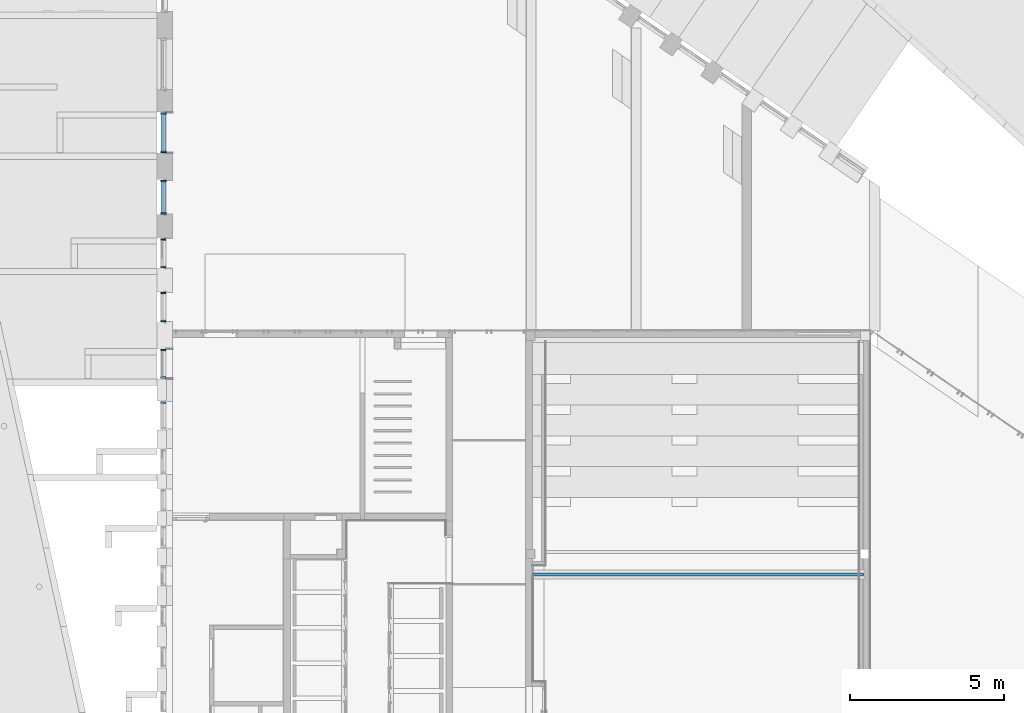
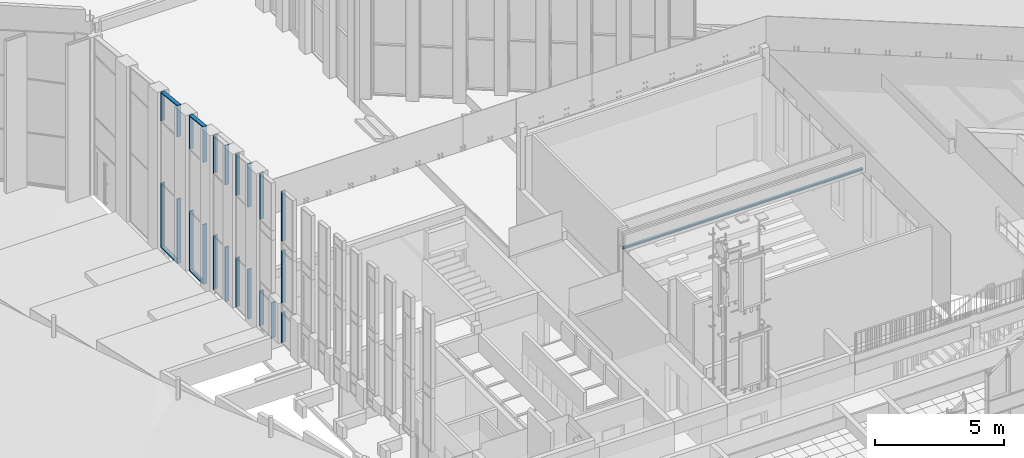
# One storey, part 61 of 246: 26 members, 1 beam, 6 elements without a shape of their own.
"""IFC2X3 building model written with IfcOpenShell, lengths in millimetres."""

from ifc_helpers import new_model, entity, si_unit, converted_unit, derived_unit, money_unit, direction, frame, origin_with_axes, place, context, subcontext, project, spatial, faceted_brep, material, type_object, element, aggregate, save


model = new_model("IFC2X3")

# Units and contexts
model_context = context("Model", 3, precision=0.01, world=origin_with_axes(), true_north=direction((0.0, 1.0)))
body_context = subcontext(model_context, "Body", "Model", "MODEL_VIEW")
ifc_project = project(units=[si_unit("LENGTHUNIT", "METRE", prefix="MILLI"), si_unit("AREAUNIT", "SQUARE_METRE"), si_unit("VOLUMEUNIT", "CUBIC_METRE"), converted_unit("PLANEANGLEUNIT", "DEGREE", entity("IfcPlaneAngleMeasure", 0.0174532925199), si_unit("PLANEANGLEUNIT", "RADIAN"), dimensions=[0, 0, 0, 0, 0, 0, 0]), si_unit("SOLIDANGLEUNIT", "STERADIAN"), money_unit("EUR"), converted_unit("TIMEUNIT", "Year", entity("IfcTimeMeasure", 31556926.0), si_unit("TIMEUNIT", "SECOND"), dimensions=[0, 0, 1, 0, 0, 0, 0]), si_unit("MASSUNIT", "GRAM", prefix="KILO"), si_unit("THERMODYNAMICTEMPERATUREUNIT", "DEGREE_CELSIUS"), si_unit("LUMINOUSINTENSITYUNIT", "LUMEN"), si_unit("ENERGYUNIT", "JOULE", prefix="MEGA"), derived_unit("THERMALCONDUCTANCEUNIT", [(si_unit("POWERUNIT", "WATT"), 1), (si_unit("LENGTHUNIT", "METRE"), -1), (si_unit("THERMODYNAMICTEMPERATUREUNIT", "KELVIN"), -1)]), derived_unit("SPECIFICHEATCAPACITYUNIT", [(si_unit("ENERGYUNIT", "JOULE"), 1), (si_unit("MASSUNIT", "GRAM", prefix="KILO"), -1), (si_unit("THERMODYNAMICTEMPERATUREUNIT", "KELVIN"), -1)]), derived_unit("MASSDENSITYUNIT", [(si_unit("MASSUNIT", "GRAM", prefix="KILO"), 1), (si_unit("VOLUMEUNIT", "CUBIC_METRE"), -1)])], contexts=[model_context])

# Site, building, storey
site_placement = place(None, origin_with_axes())
site = spatial("IfcSite", under=ifc_project, at=site_placement, Name="L.Koidula tn 11b", CompositionType="ELEMENT")
building_placement = place(site_placement, origin_with_axes())
building = spatial("IfcBuilding", under=site, at=building_placement, Name="Rakvere Riigigümnaasium", CompositionType="ELEMENT")
storey_placement = place(building_placement, origin_with_axes())
storey = spatial("IfcBuildingStorey", under=building, at=storey_placement, Name="1.korrus 0,00", CompositionType="ELEMENT", Elevation=0.0)

# Beam
ifc_material_1 = material(Name="Teras")
beam_type = type_object("IfcBeamType", Name="AR-HE100B 100 x 100", PredefinedType="BEAM")
beam_placement = place(storey_placement, frame((47209.9999935, 23585.3555432, 5525.01371318), z_axis=(0.0, 0.0, 1.0), x_axis=(0.0, -1.0, 0.0)))
element("IfcBeam", 1, at=beam_placement, inside=storey, type_object=beam_type, material=ifc_material_1, Name="TALA", ObjectType="BEAM", context=body_context, shape_type="Brep", body=[
    faceted_brep([(50.0, 0.0, -50.0), (50.0, 10770.0348166, -50.0), (50.0, 10770.0348166, -42.0), (50.0, 0.0, -42.0), (-50.0, 0.0, -50.0), (-50.0, 10770.0348166, -50.0), (-50.0, 10770.0348166, -42.0), (-17.4999999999, 10770.0348166, -42.0), (-9.99999999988, 10770.0348166, -39.9903810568), (-4.50961894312, 10770.0348166, -34.5), (-2.49999999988, 10770.0348166, -27.0), (-2.49999999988, 10770.0348166, 27.0), (-4.50961894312, 10770.0348166, 34.5), (-9.99999999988, 10770.0348166, 39.9903810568), (-17.4999999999, 10770.0348166, 42.0), (-50.0, 10770.0348166, 42.0), (-50.0, 10770.0348166, 50.0), (50.0, 10770.0348166, 50.0), (50.0, 10770.0348166, 42.0), (17.4999999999, 10770.0348166, 42.0), (9.99999999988, 10770.0348166, 39.9903810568), (4.50961894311, 10770.0348166, 34.5), (2.49999999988, 10770.0348166, 27.0), (2.49999999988, 10770.0348166, -27.0), (4.50961894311, 10770.0348166, -34.5), (9.99999999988, 10770.0348166, -39.9903810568), (17.4999999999, 10770.0348166, -42.0), (17.4999999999, 0.0, -42.0), (9.99999999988, 0.0, -39.9903810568), (4.50961894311, 0.0, -34.5), (2.49999999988, 0.0, -27.0), (2.49999999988, 0.0, 27.0), (4.50961894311, 0.0, 34.5), (9.99999999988, 0.0, 39.9903810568), (17.4999999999, 0.0, 42.0), (50.0, 0.0, 42.0), (50.0, 0.0, 50.0), (-50.0, 0.0, 50.0), (-50.0, 0.0, 42.0), (-17.4999999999, 0.0, 42.0), (-9.99999999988, 0.0, 39.9903810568), (-4.50961894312, 0.0, 34.5), (-2.49999999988, 0.0, 27.0), (-2.49999999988, 0.0, -27.0), (-4.50961894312, 0.0, -34.5), (-9.99999999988, 0.0, -39.9903810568), (-17.4999999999, 0.0, -42.0), (-50.0, 0.0, -42.0)], [[[0, 1, 2, 3]], [[4, 5, 1, 0]], [[2, 1, 5, 6, 7, 8, 9, 10, 11, 12, 13, 14, 15, 16, 17, 18, 19, 20, 21, 22, 23, 24, 25, 26]], [[3, 2, 26, 27]], [[4, 0, 3, 27, 28, 29, 30, 31, 32, 33, 34, 35, 36, 37, 38, 39, 40, 41, 42, 43, 44, 45, 46, 47]], [[47, 6, 5, 4]], [[46, 7, 6, 47]], [[45, 8, 7, 46]], [[44, 9, 8, 45]], [[43, 10, 9, 44]], [[42, 11, 10, 43]], [[41, 12, 11, 42]], [[40, 13, 12, 41]], [[39, 14, 13, 40]], [[38, 15, 14, 39]], [[37, 16, 15, 38]], [[36, 17, 16, 37]], [[35, 18, 17, 36]], [[34, 19, 18, 35]], [[33, 20, 19, 34]], [[32, 21, 20, 33]], [[31, 22, 21, 32]], [[30, 23, 22, 31]], [[29, 24, 23, 30]], [[28, 25, 24, 29]], [[27, 26, 25, 28]]]),
])

# Curtain wall, members
curtain_wall_type = type_object("IfcCurtainWallType", Name="Curtain Wall Type", PredefinedType="NOTDEFINED")
curtain_wall_1_placement = place(storey_placement, frame((35166.0871538, 37960.3285917, 675.278539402), z_axis=(0.0, 0.0, 1.0), x_axis=(1.0, 0.0, 0.0)))
curtain_wall_1 = element("IfcCurtainWall", 2, at=curtain_wall_1_placement, inside=storey, type_object=curtain_wall_type, Name="KLF-03-03")
ifc_material_2 = material(Name="Alumiiniumprofiil (RAL 7021)")
member_type = type_object("IfcMemberType", Name="Boundary Frame 50 x 170", PredefinedType="MULLION")
member_1_placement = place(curtain_wall_1_placement, frame((0.0, 650.126883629, 0.0), z_axis=(0.0, 0.0, 1.0), x_axis=(0.0, 1.0, 0.0)))
member_1 = element("IfcMember", 3, at=member_1_placement, type_object=member_type, material=ifc_material_2, Name="KLF-03-97-Profiilid", ObjectType="MULLION", context=body_context, shape_type="Brep", body=[
    faceted_brep([(-37.0, -26.0, 3070.00015014), (-50.0, -26.0, 3070.00015014), (-50.0, -124.0, 3070.00015014), (0.0, -124.0, 3070.00015014), (0.0, 46.0, 3070.00015014), (-50.0, 46.0, 3070.00015014), (-50.0, 26.0, 3070.00015014), (-37.0, 26.0, 3070.00015014), (-37.0, -26.0, 37.0), (-50.0, -26.0, 50.0), (-50.0, -124.0, 50.0), (0.0, -124.0, 0.0), (0.0, 46.0, 0.0), (-50.0, 46.0, 50.0), (-50.0, 26.0, 50.0), (-37.0, 26.0, 37.0)], [[[0, 1, 2, 3, 4, 5, 6, 7]], [[0, 8, 9, 1]], [[9, 10, 2, 1]], [[2, 10, 11, 3]], [[3, 11, 12, 4]], [[4, 12, 13, 5]], [[6, 5, 13, 14]], [[14, 15, 7, 6]], [[7, 15, 8, 0]], [[8, 15, 14, 13, 12, 11, 10, 9]]]),
])
member_2_placement = place(curtain_wall_1_placement, frame((0.0, 650.126883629, 0.0), z_axis=(0.0, -1.0, 0.0), x_axis=(0.0, 0.0, 1.0)))
member_2 = element("IfcMember", 4, at=member_2_placement, type_object=member_type, material=ifc_material_2, Name="KLF-03-90-Profiilid", ObjectType="MULLION", context=body_context, shape_type="Brep", body=[
    faceted_brep([(37.0, -26.0, 1263.25355084), (37.0, 26.0, 1263.25355084), (50.0, 26.0, 1250.25355131), (50.0, 46.0, 1250.25355131), (0.0, 46.0, 1300.25354949), (0.0, -124.0, 1300.25354949), (50.0, -124.0, 1250.25355131), (50.0, -26.0, 1250.25355131), (37.0, -26.0, 37.0), (37.0, 26.0, 37.0), (50.0, 26.0, 50.0), (50.0, 46.0, 50.0), (0.0, 46.0, 0.0), (0.0, -124.0, 0.0), (50.0, -124.0, 50.0), (50.0, -26.0, 50.0)], [[[0, 1, 2, 3, 4, 5, 6, 7]], [[1, 0, 8, 9]], [[10, 2, 1, 9]], [[2, 10, 11, 3]], [[4, 3, 11, 12]], [[5, 4, 12, 13]], [[6, 5, 13, 14]], [[15, 7, 6, 14]], [[0, 7, 15, 8]], [[8, 15, 14, 13, 12, 11, 10, 9]]]),
])
member_3_placement = place(curtain_wall_1_placement, frame((0.0, 650.126883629, 6015.00015014), z_axis=(0.0, 0.0, 1.0), x_axis=(0.0, 1.0, 0.0)))
member_3 = element("IfcMember", 5, at=member_3_placement, type_object=member_type, material=ifc_material_2, Name="KLF-03-95-Profiilid", ObjectType="MULLION", context=body_context, shape_type="Brep", body=[
    faceted_brep([(-37.0, -26.0, 1337.35404376), (-50.0, -26.0, 1325.64879081), (-50.0, -124.0, 1325.64879081), (0.0, -124.0, 1370.66899447), (0.0, 46.0, 1370.66899447), (-50.0, 46.0, 1325.64879081), (-50.0, 26.0, 1325.64879081), (-37.0, 26.0, 1337.35404376), (-37.0, -26.0, 0.0), (-50.0, -26.0, 0.0), (-50.0, -124.0, 0.0), (0.0, -124.0, 0.0), (0.0, 46.0, 0.0), (-50.0, 46.0, 0.0), (-50.0, 26.0, 0.0), (-37.0, 26.0, 0.0)], [[[0, 1, 2, 3, 4, 5, 6, 7]], [[0, 8, 9, 1]], [[9, 10, 2, 1]], [[10, 11, 3, 2]], [[11, 12, 4, 3]], [[12, 13, 5, 4]], [[6, 5, 13, 14]], [[14, 15, 7, 6]], [[7, 15, 8, 0]], [[8, 15, 14, 13, 12, 11, 10, 9]]]),
])
member_4_placement = place(curtain_wall_1_placement, frame((0.0, -650.126883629, 6015.00015014), z_axis=(0.0, 0.0, 1.0), x_axis=(0.0, 1.0, 0.0)))
member_4 = element("IfcMember", 6, at=member_4_placement, type_object=member_type, material=ifc_material_2, Name="KLF-03-93-Profiilid", ObjectType="MULLION", context=body_context, shape_type="Brep", body=[
    faceted_brep([(37.0, -26.0, 1466.23846851), (37.0, 26.0, 1466.23846851), (50.0, 26.0, 1451.80050628), (50.0, 46.0, 1451.80050628), (0.0, 46.0, 1507.33113023), (0.0, -124.0, 1507.33113023), (50.0, -124.0, 1451.80050628), (50.0, -26.0, 1451.80050628), (37.0, -26.0, -8.99887497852e-07), (37.0, 26.0, -8.99887497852e-07), (50.0, 26.0, -8.99887497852e-07), (50.0, 46.0, -8.99887497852e-07), (0.0, 46.0, -8.99887497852e-07), (0.0, -124.0, -8.99887497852e-07), (50.0, -124.0, -8.99887497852e-07), (50.0, -26.0, -8.99887497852e-07)], [[[0, 1, 2, 3, 4, 5, 6, 7]], [[1, 0, 8, 9]], [[10, 2, 1, 9]], [[2, 10, 11, 3]], [[12, 4, 3, 11]], [[13, 5, 4, 12]], [[14, 6, 5, 13]], [[15, 7, 6, 14]], [[0, 7, 15, 8]], [[8, 15, 14, 13, 12, 11, 10, 9]]]),
])
member_5_placement = place(curtain_wall_1_placement, frame((0.0, -650.126665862, 0.0), z_axis=(0.0, -3.64040998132e-08, 1.0), x_axis=(0.0, 1.0, 3.64040998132e-08)))
member_5 = element("IfcMember", 7, at=member_5_placement, type_object=member_type, material=ifc_material_2, Name="KLF-03-91-Profiilid", ObjectType="MULLION", context=body_context, shape_type="Brep", body=[
    faceted_brep([(37.0, -26.0, 3070.00015015), (37.0, 26.0, 3070.00015015), (50.0, 26.0, 3070.00015015), (50.0, 46.0, 3070.00015015), (0.0, 46.0, 3070.00015015), (0.0, -124.0, 3070.00015015), (50.0, -124.0, 3070.00015015), (50.0, -26.0, 3070.00015015), (37.0, -26.0, 36.999998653), (37.0, 26.0, 36.999998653), (50.0, 26.0, 49.9999981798), (50.0, 46.0, 49.9999981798), (0.0, 46.0, 0.0), (0.0, -124.0, 0.0), (50.0, -124.0, 49.9999981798), (50.0, -26.0, 49.9999981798)], [[[0, 1, 2, 3, 4, 5, 6, 7]], [[1, 0, 8, 9]], [[10, 2, 1, 9]], [[2, 10, 11, 3]], [[4, 3, 11, 12]], [[5, 4, 12, 13]], [[6, 5, 13, 14]], [[15, 7, 6, 14]], [[0, 7, 15, 8]], [[8, 15, 14, 13, 12, 11, 10, 9]]]),
])
member_6_placement = place(curtain_wall_1_placement, frame((0.0, -650.126883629, 7522.33128037), z_axis=(0.0, 0.994521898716, -0.104528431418), x_axis=(0.0, -0.104528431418, -0.994521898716)))
member_6 = element("IfcMember", 8, at=member_6_placement, type_object=member_type, material=ifc_material_2, Name="KLF-03-94-Profiilid", ObjectType="MULLION", context=body_context, shape_type="Brep", body=[
    faceted_brep([(37.0, -26.0, 1274.1009734), (37.0, 26.0, 1274.1009734), (50.0, 26.0, 1262.39572045), (50.0, 46.0, 1262.39572045), (0.0, 46.0, 1307.41592411), (0.0, -124.0, 1307.41592411), (50.0, -124.0, 1262.39572045), (50.0, -26.0, 1262.39572045), (37.0, -26.0, 41.0926617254), (37.0, 26.0, 41.0926617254), (50.0, 26.0, 55.5306239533), (50.0, 46.0, 55.5306239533), (0.0, 46.0, 0.0), (0.0, -124.0, 0.0), (50.0, -124.0, 55.5306239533), (50.0, -26.0, 55.5306239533)], [[[0, 1, 2, 3, 4, 5, 6, 7]], [[1, 0, 8, 9]], [[10, 2, 1, 9]], [[2, 10, 11, 3]], [[4, 3, 11, 12]], [[5, 4, 12, 13]], [[6, 5, 13, 14]], [[15, 7, 6, 14]], [[0, 7, 15, 8]], [[8, 15, 14, 13, 12, 11, 10, 9]]]),
])
aggregate(curtain_wall_1, [member_1, member_2, member_3, member_4, member_5, member_6])

curtain_wall_2_placement = place(storey_placement, frame((35166.0871538, 35860.1924029, 909.999937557), z_axis=(0.0, 0.0, 1.0), x_axis=(1.0, 0.0, 0.0)))
curtain_wall_2 = element("IfcCurtainWall", 9, at=curtain_wall_2_placement, inside=storey, type_object=curtain_wall_type, Name="KLF-03-04")
member_7_placement = place(curtain_wall_2_placement, frame((0.0, 549.999964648, 0.0), z_axis=(0.0, 0.0, 1.0), x_axis=(0.0, 1.0, 0.0)))
member_7 = element("IfcMember", 10, at=member_7_placement, type_object=member_type, material=ifc_material_2, Name="KLF-03-63-Profiilid", ObjectType="MULLION", context=body_context, shape_type="Brep", body=[
    faceted_brep([(-37.0, -26.0, 2835.0000985), (-50.0, -26.0, 2835.0000985), (-50.0, -124.0, 2835.0000985), (0.0, -124.0, 2835.0000985), (0.0, 46.0, 2835.0000985), (-50.0, 46.0, 2835.0000985), (-50.0, 26.0, 2835.0000985), (-37.0, 26.0, 2835.0000985), (-37.0, -26.0, 37.0), (-50.0, -26.0, 50.0), (-50.0, -124.0, 50.0), (0.0, -124.0, 0.0), (0.0, 46.0, 0.0), (-50.0, 46.0, 50.0), (-50.0, 26.0, 50.0), (-37.0, 26.0, 37.0)], [[[0, 1, 2, 3, 4, 5, 6, 7]], [[0, 8, 9, 1]], [[9, 10, 2, 1]], [[2, 10, 11, 3]], [[3, 11, 12, 4]], [[4, 12, 13, 5]], [[6, 5, 13, 14]], [[14, 15, 7, 6]], [[7, 15, 8, 0]], [[8, 15, 14, 13, 12, 11, 10, 9]]]),
])
member_8_placement = place(curtain_wall_2_placement, frame((0.0, 549.999964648, 0.0), z_axis=(0.0, -1.0, 0.0), x_axis=(0.0, 0.0, 1.0)))
member_8 = element("IfcMember", 11, at=member_8_placement, type_object=member_type, material=ifc_material_2, Name="KLF-03-56-Profiilid", ObjectType="MULLION", context=body_context, shape_type="Brep", body=[
    faceted_brep([(37.0, -26.0, 1062.9998853), (37.0, 26.0, 1062.9998853), (50.0, 26.0, 1049.9998853), (50.0, 46.0, 1049.9998853), (0.0, 46.0, 1099.9998853), (0.0, -124.0, 1099.9998853), (50.0, -124.0, 1049.9998853), (50.0, -26.0, 1049.9998853), (37.0, -26.0, 37.0), (37.0, 26.0, 37.0), (50.0, 26.0, 50.0), (50.0, 46.0, 50.0), (0.0, 46.0, 0.0), (0.0, -124.0, 0.0), (50.0, -124.0, 50.0), (50.0, -26.0, 50.0)], [[[0, 1, 2, 3, 4, 5, 6, 7]], [[1, 0, 8, 9]], [[10, 2, 1, 9]], [[2, 10, 11, 3]], [[4, 3, 11, 12]], [[5, 4, 12, 13]], [[6, 5, 13, 14]], [[15, 7, 6, 14]], [[0, 7, 15, 8]], [[8, 15, 14, 13, 12, 11, 10, 9]]]),
])
member_9_placement = place(curtain_wall_2_placement, frame((0.0, 549.999964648, 5780.0000985), z_axis=(0.0, 0.0, 1.0), x_axis=(0.0, 1.0, 0.0)))
member_9 = element("IfcMember", 12, at=member_9_placement, type_object=member_type, material=ifc_material_2, Name="KLF-03-61-Profiilid", ObjectType="MULLION", context=body_context, shape_type="Brep", body=[
    faceted_brep([(-37.0, -26.0, 1568.88961183), (-50.0, -26.0, 1557.18435997), (-50.0, -124.0, 1557.18435997), (0.0, -124.0, 1602.20455942), (0.0, 46.0, 1602.20455942), (-50.0, 46.0, 1557.18435997), (-50.0, 26.0, 1557.18435997), (-37.0, 26.0, 1568.88961183), (-37.0, -26.0, 0.0), (-50.0, -26.0, 0.0), (-50.0, -124.0, 0.0), (0.0, -124.0, 0.0), (0.0, 46.0, 0.0), (-50.0, 46.0, 0.0), (-50.0, 26.0, 0.0), (-37.0, 26.0, 0.0)], [[[0, 1, 2, 3, 4, 5, 6, 7]], [[0, 8, 9, 1]], [[9, 10, 2, 1]], [[10, 11, 3, 2]], [[11, 12, 4, 3]], [[12, 13, 5, 4]], [[6, 5, 13, 14]], [[14, 15, 7, 6]], [[7, 15, 8, 0]], [[8, 15, 14, 13, 12, 11, 10, 9]]]),
])
member_10_placement = place(curtain_wall_2_placement, frame((0.0, -550.000008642, 5780.0000985), z_axis=(0.0, 0.0, 1.0), x_axis=(0.0, 1.0, 0.0)))
member_10 = element("IfcMember", 13, at=member_10_placement, type_object=member_type, material=ifc_material_2, Name="KLF-03-59-Profiilid", ObjectType="MULLION", context=body_context, shape_type="Brep", body=[
    faceted_brep([(37.0, -26.0, 1676.72661783), (37.0, 26.0, 1676.72661783), (50.0, 26.0, 1662.28865425), (50.0, 46.0, 1662.28865425), (0.0, 46.0, 1717.81928341), (0.0, -124.0, 1717.81928341), (50.0, -124.0, 1662.28865425), (50.0, -26.0, 1662.28865425), (37.0, -26.0, -7.46916084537e-07), (37.0, 26.0, -7.46916084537e-07), (50.0, 26.0, -7.46916084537e-07), (50.0, 46.0, -7.46916084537e-07), (0.0, 46.0, -7.46916084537e-07), (0.0, -124.0, -7.46916084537e-07), (50.0, -124.0, -7.46916084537e-07), (50.0, -26.0, -7.46916084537e-07)], [[[0, 1, 2, 3, 4, 5, 6, 7]], [[1, 0, 8, 9]], [[10, 2, 1, 9]], [[2, 10, 11, 3]], [[12, 4, 3, 11]], [[13, 5, 4, 12]], [[14, 6, 5, 13]], [[15, 7, 6, 14]], [[0, 7, 15, 8]], [[8, 15, 14, 13, 12, 11, 10, 9]]]),
])
member_11_placement = place(curtain_wall_2_placement, frame((0.0, -549.999920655, 0.0), z_axis=(0.0, 0.0, 1.0), x_axis=(0.0, 1.0, 0.0)))
member_11 = element("IfcMember", 14, at=member_11_placement, type_object=member_type, material=ifc_material_2, Name="KLF-03-57-Profiilid", ObjectType="MULLION", context=body_context, shape_type="Brep", body=[
    faceted_brep([(37.0, -26.0, 2835.00009925), (37.0, 26.0, 2835.00009925), (50.0, 26.0, 2835.00009925), (50.0, 46.0, 2835.00009925), (0.0, 46.0, 2835.00009925), (0.0, -124.0, 2835.00009925), (50.0, -124.0, 2835.00009925), (50.0, -26.0, 2835.00009925), (37.0, -26.0, 37.0), (37.0, 26.0, 37.0), (50.0, 26.0, 50.0), (50.0, 46.0, 50.0), (0.0, 46.0, 0.0), (0.0, -124.0, 0.0), (50.0, -124.0, 50.0), (50.0, -26.0, 50.0)], [[[0, 1, 2, 3, 4, 5, 6, 7]], [[1, 0, 8, 9]], [[10, 2, 1, 9]], [[2, 10, 11, 3]], [[4, 3, 11, 12]], [[5, 4, 12, 13]], [[6, 5, 13, 14]], [[15, 7, 6, 14]], [[0, 7, 15, 8]], [[8, 15, 14, 13, 12, 11, 10, 9]]]),
])
member_12_placement = place(curtain_wall_2_placement, frame((0.0, -550.000008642, 7497.81938191), z_axis=(0.0, 0.994521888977, -0.104528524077), x_axis=(0.0, -0.104528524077, -0.994521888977)))
member_12 = element("IfcMember", 15, at=member_12_placement, type_object=member_type, material=ifc_material_2, Name="KLF-03-60-Profiilid", ObjectType="MULLION", context=body_context, shape_type="Brep", body=[
    faceted_brep([(37.0, -26.0, 1072.74414018), (37.0, 26.0, 1072.74414018), (50.0, 26.0, 1061.03888832), (50.0, 46.0, 1061.03888832), (0.0, 46.0, 1106.05908777), (0.0, -124.0, 1106.05908777), (50.0, -124.0, 1061.03888832), (50.0, -26.0, 1061.03888832), (37.0, -26.0, 41.0926655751), (37.0, 26.0, 41.0926655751), (50.0, 26.0, 55.5306291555), (50.0, 46.0, 55.5306291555), (0.0, 46.0, 0.0), (0.0, -124.0, 0.0), (50.0, -124.0, 55.5306291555), (50.0, -26.0, 55.5306291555)], [[[0, 1, 2, 3, 4, 5, 6, 7]], [[1, 0, 8, 9]], [[10, 2, 1, 9]], [[2, 10, 11, 3]], [[4, 3, 11, 12]], [[5, 4, 12, 13]], [[6, 5, 13, 14]], [[15, 7, 6, 14]], [[0, 7, 15, 8]], [[8, 15, 14, 13, 12, 11, 10, 9]]]),
])
aggregate(curtain_wall_2, [member_7, member_8, member_9, member_10, member_11, member_12])

curtain_wall_3_placement = place(storey_placement, frame((35156.0871538, 34035.34119, 1144.99990202), z_axis=(0.0, 0.0, 1.0), x_axis=(1.0, 0.0, 0.0)))
curtain_wall_3 = element("IfcCurtainWall", 16, at=curtain_wall_3_placement, inside=storey, type_object=curtain_wall_type, Name="KLF-03-05")
member_13_placement = place(curtain_wall_3_placement, frame((0.0, 475.000039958, 2600.00013945), z_axis=(0.0, -4.26853907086e-08, -1.0), x_axis=(0.0, -1.0, 4.26853907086e-08)))
member_13 = element("IfcMember", 17, at=member_13_placement, type_object=member_type, material=ifc_material_2, Name="KLF-03-22-Profiilid", ObjectType="MULLION", context=body_context, shape_type="Brep", body=[
    faceted_brep([(37.0, -26.0, 2563.00014103), (37.0, 26.0, 2563.00014103), (50.0, 26.0, 2550.00014158), (50.0, 46.0, 2550.00014158), (0.0, 46.0, 2600.00013945), (0.0, -124.0, 2600.00013945), (50.0, -124.0, 2550.00014158), (50.0, -26.0, 2550.00014158), (37.0, -26.0, -1.06713482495e-06), (37.0, 26.0, -1.06713482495e-06), (50.0, 26.0, -1.06713482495e-06), (50.0, 46.0, -1.06713482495e-06), (0.0, 46.0, -1.06713482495e-06), (0.0, -124.0, -1.06713482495e-06), (50.0, -124.0, -1.06713482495e-06), (50.0, -26.0, -1.06713482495e-06)], [[[0, 1, 2, 3, 4, 5, 6, 7]], [[1, 0, 8, 9]], [[10, 2, 1, 9]], [[2, 10, 11, 3]], [[12, 4, 3, 11]], [[13, 5, 4, 12]], [[14, 6, 5, 13]], [[15, 7, 6, 14]], [[0, 7, 15, 8]], [[8, 15, 14, 13, 12, 11, 10, 9]]]),
])
member_14_placement = place(curtain_wall_3_placement, frame((0.0, 475.000000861, 7346.88707448), z_axis=(0.0, 2.16976576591e-08, -1.0), x_axis=(0.0, -1.0, -2.16976576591e-08)))
member_14 = element("IfcMember", 18, at=member_14_placement, type_object=member_type, material=ifc_material_2, Name="KLF-03-28-Profiilid", ObjectType="MULLION", context=body_context, shape_type="Brep", body=[
    faceted_brep([(37.0, -26.0, 1801.88693557), (37.0, 26.0, 1801.88693557), (50.0, 26.0, 1801.88693557), (50.0, 46.0, 1801.88693557), (0.0, 46.0, 1801.88693557), (0.0, -124.0, 1801.88693557), (50.0, -124.0, 1801.88693557), (50.0, -26.0, 1801.88693557), (37.0, -26.0, 33.314947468), (37.0, 26.0, 33.314947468), (50.0, 26.0, 45.020199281), (50.0, 46.0, 45.020199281), (0.0, 46.0, 0.0), (0.0, -124.0, 0.0), (50.0, -124.0, 45.020199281), (50.0, -26.0, 45.020199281)], [[[0, 1, 2, 3, 4, 5, 6, 7]], [[1, 0, 8, 9]], [[10, 2, 1, 9]], [[2, 10, 11, 3]], [[4, 3, 11, 12]], [[5, 4, 12, 13]], [[6, 5, 13, 14]], [[15, 7, 6, 14]], [[0, 7, 15, 8]], [[8, 15, 14, 13, 12, 11, 10, 9]]]),
])
member_15_placement = place(curtain_wall_3_placement, frame((0.0, -475.000063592, 5545.00013945), z_axis=(0.0, 0.0, 1.0), x_axis=(0.0, 1.0, 0.0)))
member_15 = element("IfcMember", 19, at=member_15_placement, type_object=member_type, material=ifc_material_2, Name="KLF-03-26-Profiilid", ObjectType="MULLION", context=body_context, shape_type="Brep", body=[
    faceted_brep([(37.0, -26.0, 1860.64334189), (37.0, 26.0, 1860.64334189), (50.0, 26.0, 1846.20537857), (50.0, 46.0, 1846.20537857), (0.0, 46.0, 1901.73600672), (0.0, -124.0, 1901.73600672), (50.0, -124.0, 1846.20537857), (50.0, -26.0, 1846.20537857), (37.0, -26.0, -4.01246813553e-07), (37.0, 26.0, -4.01246813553e-07), (50.0, 26.0, -4.0124670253e-07), (50.0, 46.0, -4.0124670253e-07), (0.0, 46.0, -4.0124670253e-07), (0.0, -124.0, -4.0124670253e-07), (50.0, -124.0, -4.0124670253e-07), (50.0, -26.0, -4.0124670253e-07)], [[[0, 1, 2, 3, 4, 5, 6, 7]], [[1, 0, 8, 9]], [[10, 2, 1, 9]], [[2, 10, 11, 3]], [[12, 4, 3, 11]], [[13, 5, 4, 12]], [[14, 6, 5, 13]], [[15, 7, 6, 14]], [[0, 7, 15, 8]], [[8, 15, 14, 13, 12, 11, 10, 9]]]),
])
member_16_placement = place(curtain_wall_3_placement, frame((0.0, -475.000016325, 0.0), z_axis=(0.0, 0.0, 1.0), x_axis=(0.0, 1.0, 0.0)))
member_16 = element("IfcMember", 20, at=member_16_placement, type_object=member_type, material=ifc_material_2, Name="KLF-03-24-Profiilid", ObjectType="MULLION", context=body_context, shape_type="Brep", body=[
    faceted_brep([(37.0, -26.0, 2600.00013985), (37.0, 26.0, 2600.00013985), (50.0, 26.0, 2600.00013985), (50.0, 46.0, 2600.00013985), (0.0, 46.0, 2600.00013985), (0.0, -124.0, 2600.00013985), (50.0, -124.0, 2600.00013985), (50.0, -26.0, 2600.00013985), (37.0, -26.0, 37.0), (37.0, 26.0, 37.0), (50.0, 26.0, 50.0), (50.0, 46.0, 50.0), (0.0, 46.0, 0.0), (0.0, -124.0, 0.0), (50.0, -124.0, 50.0), (50.0, -26.0, 50.0)], [[[0, 1, 2, 3, 4, 5, 6, 7]], [[1, 0, 8, 9]], [[10, 2, 1, 9]], [[2, 10, 11, 3]], [[4, 3, 11, 12]], [[5, 4, 12, 13]], [[6, 5, 13, 14]], [[15, 7, 6, 14]], [[0, 7, 15, 8]], [[8, 15, 14, 13, 12, 11, 10, 9]]]),
])
aggregate(curtain_wall_3, [member_13, member_14, member_15, member_16])

curtain_wall_4_placement = place(storey_placement, frame((35156.0871538, 32285.4558039, 1374.99993164), z_axis=(0.0, 0.0, 1.0), x_axis=(1.0, 0.0, 0.0)))
curtain_wall_4 = element("IfcCurtainWall", 21, at=curtain_wall_4_placement, inside=storey, type_object=curtain_wall_type, Name="KLF-03-06")
member_17_placement = place(curtain_wall_4_placement, frame((0.0, 474.999815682, 2370.00014685), z_axis=(0.0, -4.65558784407e-08, -1.0), x_axis=(0.0, -1.0, 4.65558784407e-08)))
member_17 = element("IfcMember", 22, at=member_17_placement, type_object=member_type, material=ifc_material_2, Name="KLF-03-49-Profiilid", ObjectType="MULLION", context=body_context, shape_type="Brep", body=[
    faceted_brep([(37.0, -26.0, 2333.00014857), (37.0, 26.0, 2333.00014857), (50.0, 26.0, 2320.00014918), (50.0, 46.0, 2320.00014918), (0.0, 46.0, 2370.00014685), (0.0, -124.0, 2370.00014685), (50.0, -124.0, 2320.00014918), (50.0, -26.0, 2320.00014918), (37.0, -26.0, -1.1638969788e-06), (37.0, 26.0, -1.1638969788e-06), (50.0, 26.0, -1.1638969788e-06), (50.0, 46.0, -1.1638969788e-06), (0.0, 46.0, -1.1638969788e-06), (0.0, -124.0, -1.1638969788e-06), (50.0, -124.0, -1.1638969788e-06), (50.0, -26.0, -1.1638969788e-06)], [[[0, 1, 2, 3, 4, 5, 6, 7]], [[1, 0, 8, 9]], [[10, 2, 1, 9]], [[2, 10, 11, 3]], [[12, 4, 3, 11]], [[13, 5, 4, 12]], [[14, 6, 5, 13]], [[15, 7, 6, 14]], [[0, 7, 15, 8]], [[8, 15, 14, 13, 12, 11, 10, 9]]]),
])
member_18_placement = place(curtain_wall_4_placement, frame((0.0, 474.99988352, 7300.80750794), z_axis=(0.0, -3.41613354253e-08, -1.0), x_axis=(0.0, -1.0, 3.41613354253e-08)))
member_18 = element("IfcMember", 23, at=member_18_placement, type_object=member_type, material=ifc_material_2, Name="KLF-03-55-Profiilid", ObjectType="MULLION", context=body_context, shape_type="Brep", body=[
    faceted_brep([(37.0, -26.0, 1985.80736195), (37.0, 26.0, 1985.80736195), (50.0, 26.0, 1985.80736195), (50.0, 46.0, 1985.80736195), (0.0, 46.0, 1985.80736195), (0.0, -124.0, 1985.80736195), (50.0, -124.0, 1985.80736195), (50.0, -26.0, 1985.80736195), (37.0, -26.0, 33.3149512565), (37.0, 26.0, 33.3149512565), (50.0, 26.0, 45.0202044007), (50.0, 46.0, 45.0202044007), (0.0, 46.0, 0.0), (0.0, -124.0, 0.0), (50.0, -124.0, 45.0202044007), (50.0, -26.0, 45.0202044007)], [[[0, 1, 2, 3, 4, 5, 6, 7]], [[1, 0, 8, 9]], [[10, 2, 1, 9]], [[2, 10, 11, 3]], [[4, 3, 11, 12]], [[5, 4, 12, 13]], [[6, 5, 13, 14]], [[15, 7, 6, 14]], [[0, 7, 15, 8]], [[8, 15, 14, 13, 12, 11, 10, 9]]]),
])
member_19_placement = place(curtain_wall_4_placement, frame((0.0, -474.999849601, 5315.00014685), z_axis=(0.0, 0.0, 1.0), x_axis=(0.0, 1.0, 0.0)))
member_19 = element("IfcMember", 24, at=member_19_placement, type_object=member_type, material=ifc_material_2, Name="KLF-03-53-Profiilid", ObjectType="MULLION", context=body_context, shape_type="Brep", body=[
    faceted_brep([(37.0, -26.0, 2044.56368051), (37.0, 26.0, 2044.56368051), (50.0, 26.0, 2030.12571803), (50.0, 46.0, 2030.12571803), (0.0, 46.0, 2085.65634298), (0.0, -124.0, 2085.65634298), (50.0, -124.0, 2030.12571803), (50.0, -26.0, 2030.12571803), (37.0, -26.0, -1.02925090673e-06), (37.0, 26.0, -1.02925090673e-06), (50.0, 26.0, -1.02925068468e-06), (50.0, 46.0, -1.02925068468e-06), (0.0, 46.0, -1.02925068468e-06), (0.0, -124.0, -1.02925068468e-06), (50.0, -124.0, -1.02925068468e-06), (50.0, -26.0, -1.02925068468e-06)], [[[0, 1, 2, 3, 4, 5, 6, 7]], [[1, 0, 8, 9]], [[10, 2, 1, 9]], [[2, 10, 11, 3]], [[12, 4, 3, 11]], [[13, 5, 4, 12]], [[14, 6, 5, 13]], [[15, 7, 6, 14]], [[0, 7, 15, 8]], [[8, 15, 14, 13, 12, 11, 10, 9]]]),
])
member_20_placement = place(curtain_wall_4_placement, frame((0.0, -474.999970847, 0.0), z_axis=(0.0, 0.0, 1.0), x_axis=(0.0, 1.0, 0.0)))
member_20 = element("IfcMember", 25, at=member_20_placement, type_object=member_type, material=ifc_material_2, Name="KLF-03-51-Profiilid", ObjectType="MULLION", context=body_context, shape_type="Brep", body=[
    faceted_brep([(37.0, -26.0, 2370.00014788), (37.0, 26.0, 2370.00014788), (50.0, 26.0, 2370.00014788), (50.0, 46.0, 2370.00014788), (0.0, 46.0, 2370.00014788), (0.0, -124.0, 2370.00014788), (50.0, -124.0, 2370.00014788), (50.0, -26.0, 2370.00014788), (37.0, -26.0, 37.0), (37.0, 26.0, 37.0), (50.0, 26.0, 50.0), (50.0, 46.0, 50.0), (0.0, 46.0, 0.0), (0.0, -124.0, 0.0), (50.0, -124.0, 50.0), (50.0, -26.0, 50.0)], [[[0, 1, 2, 3, 4, 5, 6, 7]], [[1, 0, 8, 9]], [[10, 2, 1, 9]], [[2, 10, 11, 3]], [[4, 3, 11, 12]], [[5, 4, 12, 13]], [[6, 5, 13, 14]], [[15, 7, 6, 14]], [[0, 7, 15, 8]], [[8, 15, 14, 13, 12, 11, 10, 9]]]),
])
aggregate(curtain_wall_4, [member_17, member_18, member_19, member_20])

curtain_wall_5_placement = place(storey_placement, frame((35156.0871538, 30435.4555151, 1604.94683277), z_axis=(0.0, 0.0, 1.0), x_axis=(1.0, 0.0, 0.0)))
curtain_wall_5 = element("IfcCurtainWall", 26, at=curtain_wall_5_placement, inside=storey, type_object=curtain_wall_type, Name="KLF-04-01")
member_21_placement = place(curtain_wall_5_placement, frame((0.0, -475.000067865, 0.0), z_axis=(0.0, 0.0, 1.0), x_axis=(0.0, 1.0, 0.0)))
member_21 = element("IfcMember", 27, at=member_21_placement, type_object=member_type, material=ifc_material_2, Name="KLF-04-52-Profiilid", ObjectType="MULLION", context=body_context, shape_type="Brep", body=[
    faceted_brep([(37.0, -26.0, 1695.00006988), (37.0, 26.0, 1695.00006988), (50.0, 26.0, 1695.00006988), (50.0, 46.0, 1695.00006988), (0.0, 46.0, 1695.00006988), (0.0, -124.0, 1695.00006988), (50.0, -124.0, 1695.00006988), (50.0, -26.0, 1695.00006988), (37.0, -26.0, 37.0), (37.0, 26.0, 37.0), (50.0, 26.0, 50.0), (50.0, 46.0, 50.0), (0.0, 46.0, 0.0), (0.0, -124.0, 0.0), (50.0, -124.0, 50.0), (50.0, -26.0, 50.0)], [[[0, 1, 2, 3, 4, 5, 6, 7]], [[1, 0, 8, 9]], [[10, 2, 1, 9]], [[2, 10, 11, 3]], [[4, 3, 11, 12]], [[5, 4, 12, 13]], [[6, 5, 13, 14]], [[15, 7, 6, 14]], [[0, 7, 15, 8]], [[8, 15, 14, 13, 12, 11, 10, 9]]]),
])
member_22_placement = place(curtain_wall_5_placement, frame((0.0, 475.000062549, 7265.30347787), z_axis=(0.0, 2.43817977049e-09, -1.0), x_axis=(0.0, -1.0, -2.43817977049e-09)))
member_22 = element("IfcMember", 28, at=member_22_placement, type_object=member_type, material=ifc_material_2, Name="KLF-04-58-Profiilid", ObjectType="MULLION", context=body_context, shape_type="Brep", body=[
    faceted_brep([(37.0, -26.0, 2180.30340804), (37.0, 26.0, 2180.30340804), (50.0, 26.0, 2180.30340804), (50.0, 46.0, 2180.30340804), (0.0, 46.0, 2180.30340804), (0.0, -124.0, 2180.30340804), (50.0, -124.0, 2180.30340804), (50.0, -26.0, 2180.30340804), (37.0, -26.0, 33.3149534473), (37.0, 26.0, 33.3149534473), (50.0, 26.0, 45.0202073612), (50.0, 46.0, 45.0202073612), (0.0, 46.0, 0.0), (0.0, -124.0, 0.0), (50.0, -124.0, 45.0202073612), (50.0, -26.0, 45.0202073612)], [[[0, 1, 2, 3, 4, 5, 6, 7]], [[1, 0, 8, 9]], [[10, 2, 1, 9]], [[2, 10, 11, 3]], [[4, 3, 11, 12]], [[5, 4, 12, 13]], [[6, 5, 13, 14]], [[15, 7, 6, 14]], [[0, 7, 15, 8]], [[8, 15, 14, 13, 12, 11, 10, 9]]]),
])
member_23_placement = place(curtain_wall_5_placement, frame((0.0, 475.000067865, 1695.00006988), z_axis=(0.0, -6.58957515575e-09, -1.0), x_axis=(0.0, -1.0, 6.58957515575e-09)))
member_23 = element("IfcMember", 29, at=member_23_placement, type_object=member_type, material=ifc_material_2, Name="KLF-04-50-Profiilid", ObjectType="MULLION", context=body_context, shape_type="Brep", body=[
    faceted_brep([(37.0, -26.0, 1658.00007013), (37.0, 26.0, 1658.00007013), (50.0, 26.0, 1645.00007021), (50.0, 46.0, 1645.00007021), (0.0, 46.0, 1695.00006988), (0.0, -124.0, 1695.00006988), (50.0, -124.0, 1645.00007021), (50.0, -26.0, 1645.00007021), (37.0, -26.0, -1.64739333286e-07), (37.0, 26.0, -1.64739333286e-07), (50.0, 26.0, -1.64739333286e-07), (50.0, 46.0, -1.64739333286e-07), (0.0, 46.0, -1.64739333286e-07), (0.0, -124.0, -1.64739333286e-07), (50.0, -124.0, -1.64739333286e-07), (50.0, -26.0, -1.64739333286e-07)], [[[0, 1, 2, 3, 4, 5, 6, 7]], [[1, 0, 8, 9]], [[10, 2, 1, 9]], [[2, 10, 11, 3]], [[12, 4, 3, 11]], [[13, 5, 4, 12]], [[14, 6, 5, 13]], [[15, 7, 6, 14]], [[0, 7, 15, 8]], [[8, 15, 14, 13, 12, 11, 10, 9]]]),
])
aggregate(curtain_wall_5, [member_21, member_22, member_23])

curtain_wall_6_placement = place(storey_placement, frame((35156.0871538, 28760.4555979, 1840.0), z_axis=(0.0, 0.0, 1.0), x_axis=(1.0, 0.0, 0.0)))
curtain_wall_6 = element("IfcCurtainWall", 30, at=curtain_wall_6_placement, inside=storey, type_object=curtain_wall_type, Name="KLF-04-02")
member_24_placement = place(curtain_wall_6_placement, frame((0.0, 449.999927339, 0.0), z_axis=(0.0, 0.0, 1.0), x_axis=(0.0, 1.0, 0.0)))
member_24 = element("IfcMember", 31, at=member_24_placement, type_object=member_type, material=ifc_material_2, Name="KLF-04-88-Profiilid", ObjectType="MULLION", context=body_context, shape_type="Brep", body=[
    faceted_brep([(-37.0, -26.0, 1460.00005204), (-50.0, -26.0, 1460.00005204), (-50.0, -124.0, 1460.00005204), (0.0, -124.0, 1460.00005204), (0.0, 46.0, 1460.00005204), (-50.0, 46.0, 1460.00005204), (-50.0, 26.0, 1460.00005204), (-37.0, 26.0, 1460.00005204), (-37.0, -26.0, 37.0), (-50.0, -26.0, 50.0), (-50.0, -124.0, 50.0), (0.0, -124.0, 0.0), (0.0, 46.0, 0.0), (-50.0, 46.0, 50.0), (-50.0, 26.0, 50.0), (-37.0, 26.0, 37.0)], [[[0, 1, 2, 3, 4, 5, 6, 7]], [[0, 8, 9, 1]], [[9, 10, 2, 1]], [[2, 10, 11, 3]], [[3, 11, 12, 4]], [[4, 12, 13, 5]], [[6, 5, 13, 14]], [[14, 15, 7, 6]], [[7, 15, 8, 0]], [[8, 15, 14, 13, 12, 11, 10, 9]]]),
])
member_25_placement = place(curtain_wall_6_placement, frame((0.0, 449.999927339, 1905.00005204), z_axis=(0.0, 0.0, 1.0), x_axis=(0.0, 1.0, 0.0)))
member_25 = element("IfcMember", 32, at=member_25_placement, type_object=member_type, material=ifc_material_2, Name="KLF-04-98-Profiilid", ObjectType="MULLION", context=body_context, shape_type="Brep", body=[
    faceted_brep([(-37.0, -26.0, 2500.0), (-50.0, -26.0, 2500.0), (-50.0, -124.0, 2500.0), (0.0, -124.0, 2500.0), (0.0, 46.0, 2500.0), (-50.0, 46.0, 2500.0), (-50.0, 26.0, 2500.0), (-37.0, 26.0, 2500.0), (-37.0, -26.0, 0.0), (-50.0, -26.0, 0.0), (-50.0, -124.0, 0.0), (0.0, -124.0, 0.0), (0.0, 46.0, 0.0), (-50.0, 46.0, 0.0), (-50.0, 26.0, 0.0), (-37.0, 26.0, 0.0)], [[[0, 1, 2, 3, 4, 5, 6, 7]], [[0, 8, 9, 1]], [[9, 10, 2, 1]], [[10, 11, 3, 2]], [[11, 12, 4, 3]], [[12, 13, 5, 4]], [[6, 5, 13, 14]], [[14, 15, 7, 6]], [[7, 15, 8, 0]], [[8, 15, 14, 13, 12, 11, 10, 9]]]),
])
member_26_placement = place(curtain_wall_6_placement, frame((0.0, 449.999927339, 4850.00005204), z_axis=(0.0, 0.0, 1.0), x_axis=(0.0, 1.0, 0.0)))
member_26 = element("IfcMember", 33, at=member_26_placement, type_object=member_type, material=ifc_material_2, Name="KLF-04-96-Profiilid", ObjectType="MULLION", context=body_context, shape_type="Brep", body=[
    faceted_brep([(-37.0, -26.0, 2325.61247537), (-50.0, -26.0, 2313.90722313), (-50.0, -124.0, 2313.90722313), (0.0, -124.0, 2358.92742405), (0.0, 46.0, 2358.92742405), (-50.0, 46.0, 2313.90722313), (-50.0, 26.0, 2313.90722313), (-37.0, 26.0, 2325.61247537), (-37.0, -26.0, 0.0), (-50.0, -26.0, 0.0), (-50.0, -124.0, 0.0), (0.0, -124.0, 0.0), (0.0, 46.0, 0.0), (-50.0, 46.0, 0.0), (-50.0, 26.0, 0.0), (-37.0, 26.0, 0.0)], [[[0, 1, 2, 3, 4, 5, 6, 7]], [[0, 8, 9, 1]], [[9, 10, 2, 1]], [[10, 11, 3, 2]], [[11, 12, 4, 3]], [[12, 13, 5, 4]], [[6, 5, 13, 14]], [[14, 15, 7, 6]], [[7, 15, 8, 0]], [[8, 15, 14, 13, 12, 11, 10, 9]]]),
])
aggregate(curtain_wall_6, [member_24, member_25, member_26])

save(model, "model.ifc")
